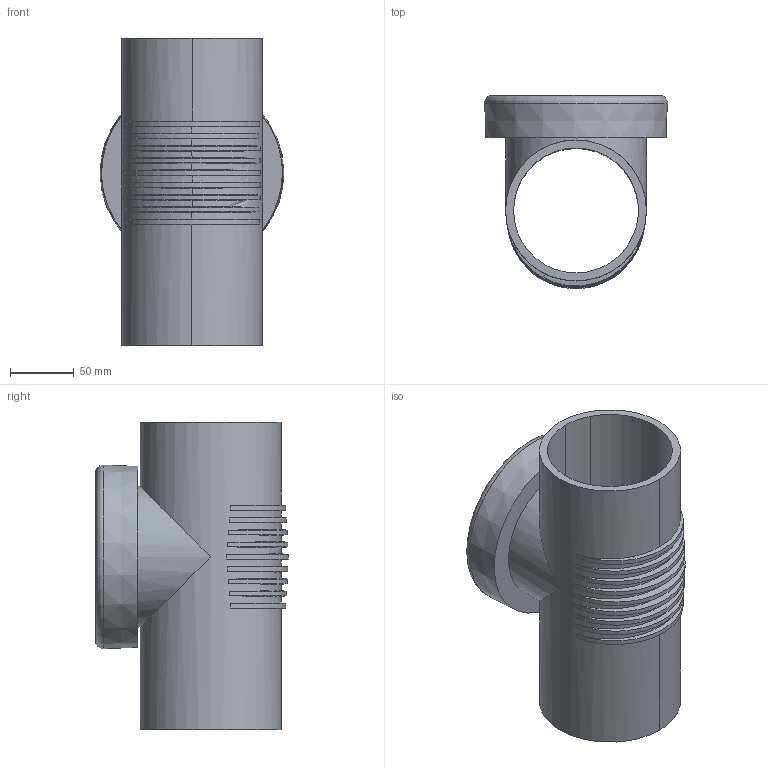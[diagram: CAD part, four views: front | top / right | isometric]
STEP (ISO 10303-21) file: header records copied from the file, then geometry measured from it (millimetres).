
FILE_DESCRIPTION(/* description */ (''),/* implementation_level */ '2;1');
FILE_NAME(/* name */ 'H:\Geberit-Teile\Export\310.334.14.1\stp\310334.stp',/* time_stamp */ '2017-01-13T14:12:00+01:00',/* author */ ('seihe2'),/* organization */ (''),/* preprocessor_version */ 'ST-DEVELOPER v15.2',/* originating_system */ 'Autodesk Inventor 2014',/* authorisation */ '');
FILE_SCHEMA (('AUTOMOTIVE_DESIGN { 1 0 10303 214 3 1 1 }'));
Length unit declared in the file: millimetre
Products named in the file (1): 310334
Bounding box: 143.95 x 151.2 x 241 mm (x, y, z)
Volume: 1135855.4 mm3; surface area: 201237.1 mm2
Topology: 1 solids, 1 shells, 47 faces, 155 edges, 111 vertices
Faces by surface type: cone 24, cylinder 16, plane 6, torus 1
Entity records: 2418 total; most frequent: CARTESIAN_POINT 1046, ORIENTED_EDGE 304, DIRECTION 228, EDGE_CURVE 152, VERTEX_POINT 110, AXIS2_PLACEMENT_3D 89, B_SPLINE_CURVE_WITH_KNOTS 61, EDGE_LOOP 52
